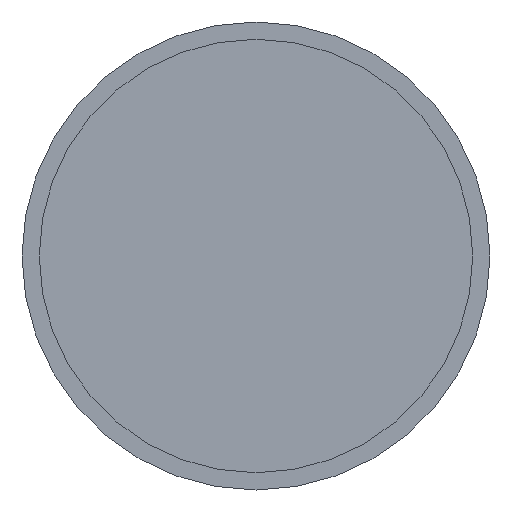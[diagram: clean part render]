
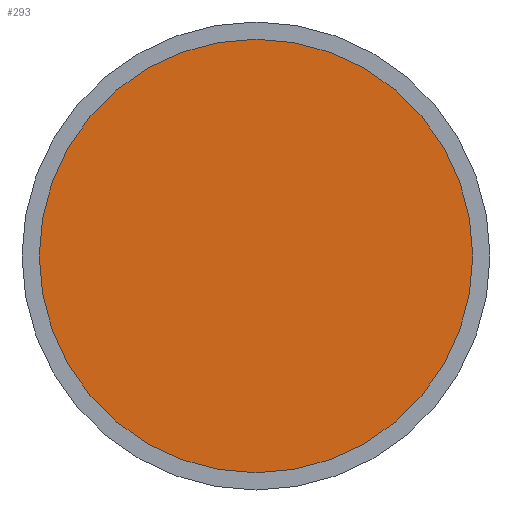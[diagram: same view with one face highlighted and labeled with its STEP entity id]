
A CAD part, front view. The second image highlights one B-rep face of the part: STEP entity #293.
In plain terms, the highlighted planar face has unit normal (0, -1, 0).
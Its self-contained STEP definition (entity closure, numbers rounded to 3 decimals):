
#224 = CYLINDRICAL_SURFACE('',#225,4.4);
#225 = AXIS2_PLACEMENT_3D('',#226,#227,#228);
#226 = CARTESIAN_POINT('',(60.6,58.7,-170.));
#227 = DIRECTION('',(0.,-1.,-0.));
#228 = DIRECTION('',(1.,0.,0.));
#243 = VERTEX_POINT('',#244);
#244 = CARTESIAN_POINT('',(65.,58.7,-170.));
#267 = EDGE_CURVE('',#243,#243,#268,.T.);
#268 = SURFACE_CURVE('',#269,(#274,#281),.PCURVE_S1.);
#269 = CIRCLE('',#270,4.4);
#270 = AXIS2_PLACEMENT_3D('',#271,#272,#273);
#271 = CARTESIAN_POINT('',(60.6,58.7,-170.));
#272 = DIRECTION('',(-0.,1.,0.));
#273 = DIRECTION('',(1.,0.,0.));
#274 = PCURVE('',#224,#275);
#275 = DEFINITIONAL_REPRESENTATION('',(#276),#280);
#276 = LINE('',#277,#278);
#277 = CARTESIAN_POINT('',(-0.,0.));
#278 = VECTOR('',#279,1.);
#279 = DIRECTION('',(-1.,0.));
#280 = ( GEOMETRIC_REPRESENTATION_CONTEXT(2) 
PARAMETRIC_REPRESENTATION_CONTEXT() REPRESENTATION_CONTEXT('2D SPACE',''
  ) );
#281 = PCURVE('',#282,#287);
#282 = PLANE('',#283);
#283 = AXIS2_PLACEMENT_3D('',#284,#285,#286);
#284 = CARTESIAN_POINT('',(60.6,58.7,-170.));
#285 = DIRECTION('',(0.,1.,0.));
#286 = DIRECTION('',(0.,-0.,1.));
#287 = DEFINITIONAL_REPRESENTATION('',(#288),#292);
#288 = CIRCLE('',#289,4.4);
#289 = AXIS2_PLACEMENT_2D('',#290,#291);
#290 = CARTESIAN_POINT('',(0.,0.));
#291 = DIRECTION('',(0.,1.));
#292 = ( GEOMETRIC_REPRESENTATION_CONTEXT(2) 
PARAMETRIC_REPRESENTATION_CONTEXT() REPRESENTATION_CONTEXT('2D SPACE',''
  ) );
#293 = ADVANCED_FACE('',(#294),#282,.F.);
#294 = FACE_BOUND('',#295,.F.);
#295 = EDGE_LOOP('',(#296));
#296 = ORIENTED_EDGE('',*,*,#267,.T.);
